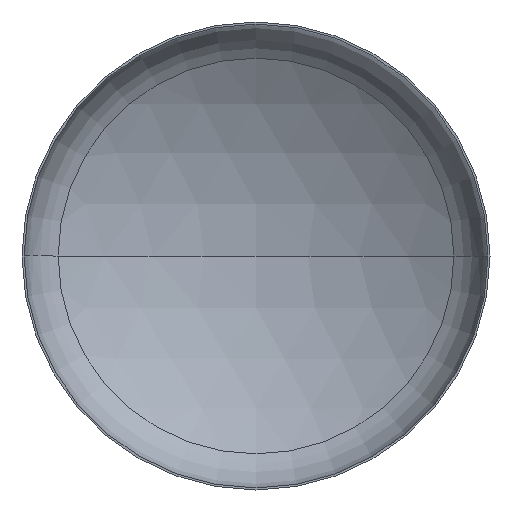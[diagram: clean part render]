
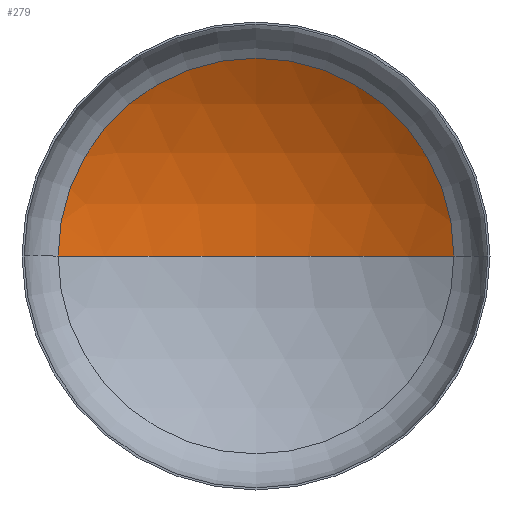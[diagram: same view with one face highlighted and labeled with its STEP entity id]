
A CAD part, front view. The second image highlights one B-rep face of the part: STEP entity #279.
In plain terms, the highlighted spherical face has radius 4800 mm.
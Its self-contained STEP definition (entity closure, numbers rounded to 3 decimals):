
#2 = EDGE_LOOP ( 'NONE', ( #39, #234, #120 ) ) ;
#15 = CARTESIAN_POINT ( 'NONE',  ( 0., -3204.578, 0. ) ) ;
#39 = ORIENTED_EDGE ( 'NONE', *, *, #192, .F. ) ;
#40 = VERTEX_POINT ( 'NONE', #276 ) ;
#59 = AXIS2_PLACEMENT_3D ( 'NONE', #251, #267, #321 ) ;
#65 = VERTEX_POINT ( 'NONE', #206 ) ;
#107 = DIRECTION ( 'NONE',  ( 1., 0., 0. ) ) ;
#112 = VERTEX_POINT ( 'NONE', #168 ) ;
#119 = AXIS2_PLACEMENT_3D ( 'NONE', #15, #284, #107 ) ;
#120 = ORIENTED_EDGE ( 'NONE', *, *, #189, .T. ) ;
#123 = AXIS2_PLACEMENT_3D ( 'NONE', #395, #181, #344 ) ;
#126 = AXIS2_PLACEMENT_3D ( 'NONE', #183, #345, #217 ) ;
#168 = CARTESIAN_POINT ( 'NONE',  ( -2536.877, 870.254, 0. ) ) ;
#181 = DIRECTION ( 'NONE',  ( 0., 0., -1. ) ) ;
#183 = CARTESIAN_POINT ( 'NONE',  ( 0., 870.254, 0. ) ) ;
#189 = EDGE_CURVE ( 'NONE', #65, #112, #271, .T. ) ;
#190 = EDGE_CURVE ( 'NONE', #40, #65, #203, .T. ) ;
#192 = EDGE_CURVE ( 'NONE', #40, #112, #379, .T. ) ;
#203 = CIRCLE ( 'NONE', #123, 4800. ) ;
#206 = CARTESIAN_POINT ( 'NONE',  ( 2536.877, 870.254, 0. ) ) ;
#217 = DIRECTION ( 'NONE',  ( 1., 0., 0. ) ) ;
#234 = ORIENTED_EDGE ( 'NONE', *, *, #190, .T. ) ;
#251 = CARTESIAN_POINT ( 'NONE',  ( 0., -3204.578, 0. ) ) ;
#267 = DIRECTION ( 'NONE',  ( 0., 0., -1. ) ) ;
#271 = CIRCLE ( 'NONE', #126, 2536.877 ) ;
#276 = CARTESIAN_POINT ( 'NONE',  ( 0., 1595.422, 0. ) ) ;
#279 = ADVANCED_FACE ( 'NONE', ( #355 ), #307, .F. ) ;
#284 = DIRECTION ( 'NONE',  ( 0., 0., 1. ) ) ;
#307 = SPHERICAL_SURFACE ( 'NONE', #59, 4800. ) ;
#321 = DIRECTION ( 'NONE',  ( -1., 0., 0. ) ) ;
#344 = DIRECTION ( 'NONE',  ( -1., 0., 0. ) ) ;
#345 = DIRECTION ( 'NONE',  ( 0., -1., 0. ) ) ;
#355 = FACE_OUTER_BOUND ( 'NONE', #2, .T. ) ;
#379 = CIRCLE ( 'NONE', #119, 4800. ) ;
#395 = CARTESIAN_POINT ( 'NONE',  ( 0., -3204.578, 0. ) ) ;
